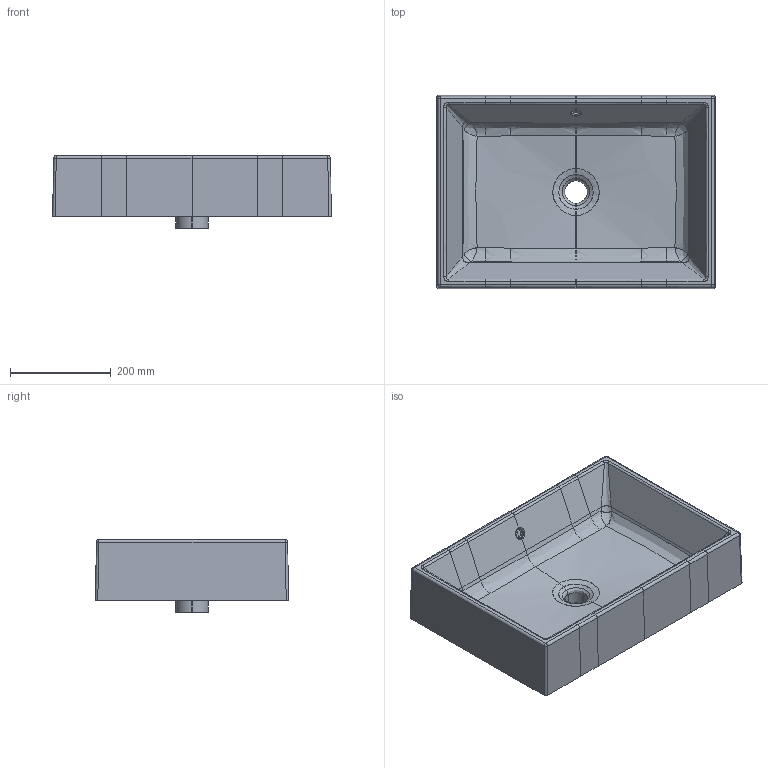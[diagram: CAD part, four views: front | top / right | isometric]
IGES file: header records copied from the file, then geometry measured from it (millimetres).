
Start section: START RECORD GO HERE.
Global section: file name: 6103_lavabo plus 55.igs; native system: DASSAULT SYSTEMES CATIA V5 R19 - www.3ds.com; preprocessor: CATIA Version 5 Release 19 SP 5 ; author: gioge; organization: LAPTOP-G94B6G74; date: 20200701.094517; units: millimetre
Bounding box: 555.11 x 385.11 x 145 mm (x, y, z)
Surface area: 785663.4 mm2 (no closed solid volume)
Topology: 0 solids, 0 shells, 372 faces, 1710 edges, 1704 vertices
Faces by surface type: bspline 318, plane 54
